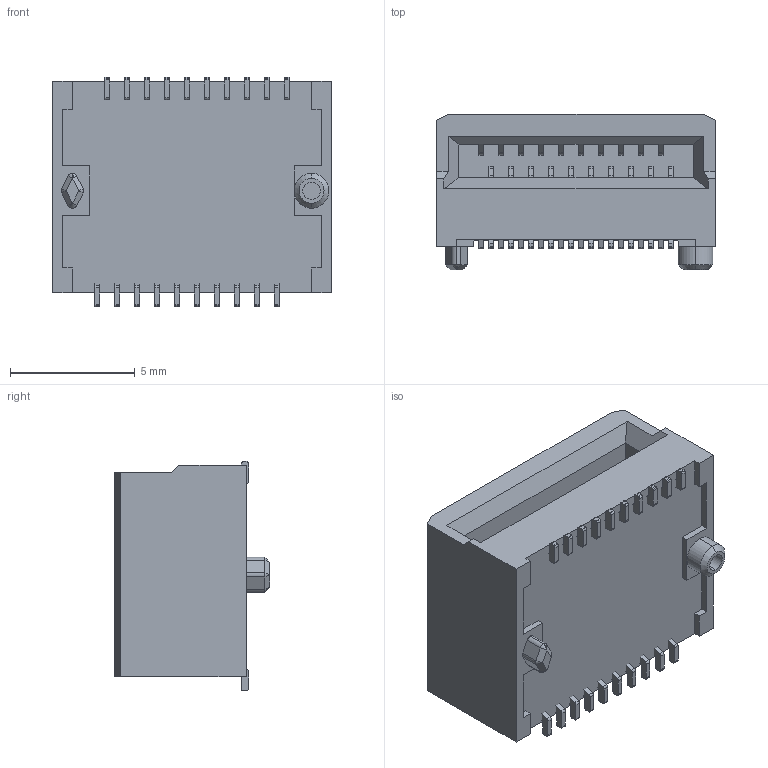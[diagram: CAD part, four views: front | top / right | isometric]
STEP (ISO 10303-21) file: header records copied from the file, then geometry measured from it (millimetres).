
FILE_DESCRIPTION (( 'STEP AP203' ), '1' );
FILE_NAME ('SS00-XXXXX- Customer3D.STEP', '2021-06-11T02:33:26', ( '' ), ( '' ), 'SwSTEP 2.0', 'SolidWorks 2012', '' );
FILE_SCHEMA (( 'CONFIG_CONTROL_DESIGN' ));
Length unit declared in the file: millimetre
Products named in the file (1): SS00-XXXXX- Customer3D
Bounding box: 11.2 x 6.25 x 9.2 mm (x, y, z)
Volume: 220.1 mm3; surface area: 1011.6 mm2
Topology: 41 solids, 42 shells, 1099 faces, 2984 edges, 1979 vertices
Faces by surface type: plane 753, cylinder 339, cone 7
Entity records: 34481 total; most frequent: CARTESIAN_POINT 6058, ORIENTED_EDGE 5958, DIRECTION 5860, EDGE_CURVE 2979, LINE 2298, VECTOR 2298, VERTEX_POINT 1979, AXIS2_PLACEMENT_3D 1781
